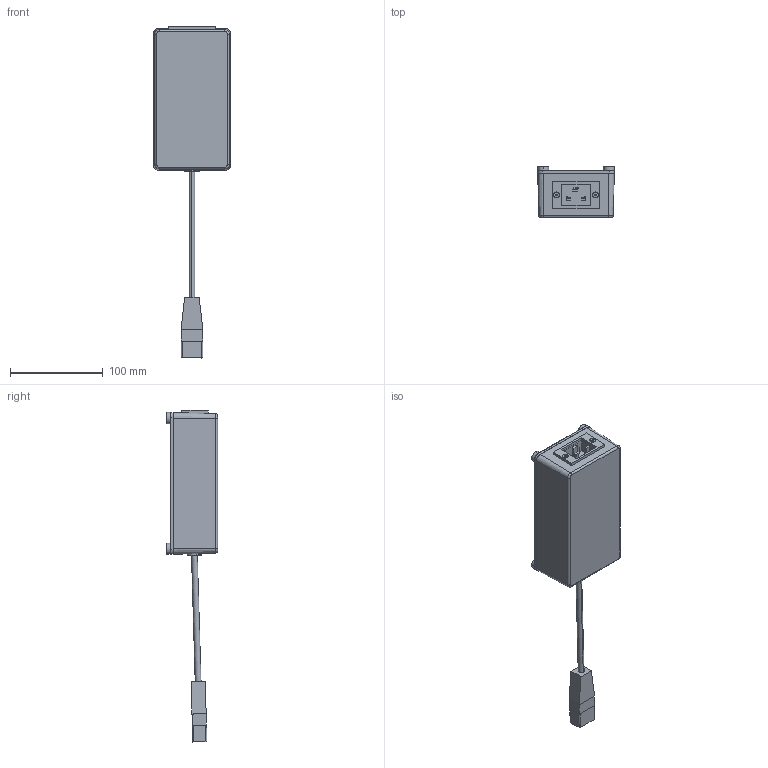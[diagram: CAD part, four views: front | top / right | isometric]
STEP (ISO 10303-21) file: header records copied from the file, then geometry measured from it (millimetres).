
FILE_DESCRIPTION (( 'STEP AP214' ), '1' );
FILE_NAME ('PMF16.STEP', '2015-02-06T09:30:31', ( '' ), ( '' ), 'SwSTEP 2.0', 'SolidWorks 2014', '' );
FILE_SCHEMA (( 'AUTOMOTIVE_DESIGN' ));
Length unit declared in the file: millimetre
Products named in the file (9): PMF16; FIX119; LDSPMF16; SKT15; GRO053; BOX865LID; PMF PLASTIC BOX; B18.6.7M - M3.5 x 0.6 x 13 Type I Cross Recessed FHMS --13N_B18.6.7M - M3.5 x 0.6 x 13 Type I Cross Recessed FHMS --13N; FIX173
Assembly tree (15 placements, depth 2):
  PMF16
    FIX173  x4
    B18.6.7M - M3.5 x 0.6 x 13 Type I Cross Recessed FHMS --13N_B18.6.7M - M3.5 x 0.6 x 13 Type I Cross Recessed FHMS --13N  x4
    PMF PLASTIC BOX
    BOX865LID
    GRO053
    SKT15
    LDSPMF16
    FIX119  x2
Bounding box: 82.7 x 55 x 357.2 mm (x, y, z)
Volume: 121930.5 mm3; surface area: 115172.9 mm2
Topology: 15 solids, 15 shells, 398 faces, 926 edges, 574 vertices
Faces by surface type: plane 194, cylinder 130, cone 30, bspline 24, torus 20
Entity records: 10386 total; most frequent: CARTESIAN_POINT 2391, DIRECTION 1528, ORIENTED_EDGE 1500, EDGE_CURVE 750, AXIS2_PLACEMENT_3D 561, VERTEX_POINT 476, LINE 406, VECTOR 406
